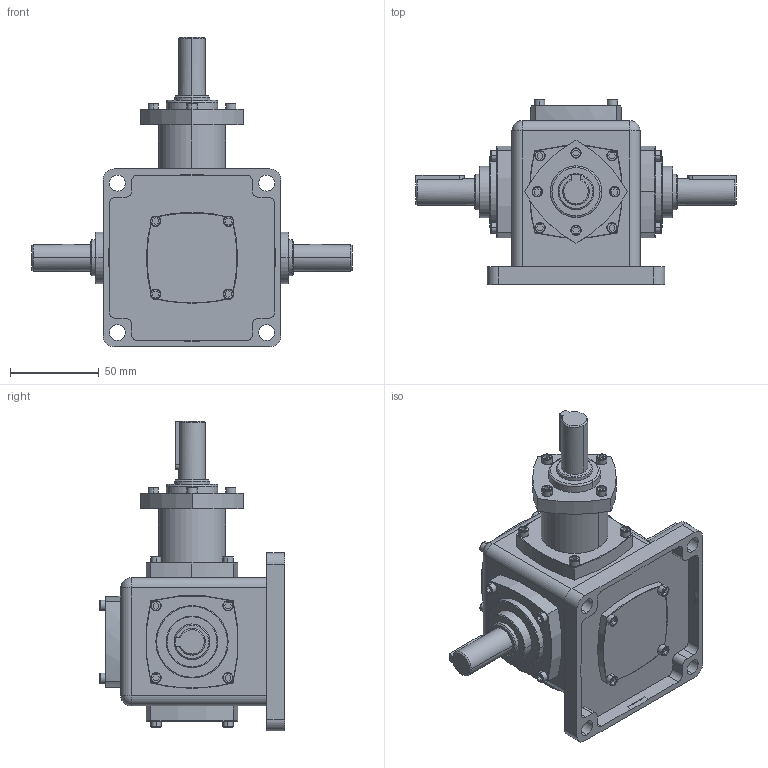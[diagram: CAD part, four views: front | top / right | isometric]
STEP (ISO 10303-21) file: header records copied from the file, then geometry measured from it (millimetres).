
FILE_DESCRIPTION (( 'STEP AP214' ), '1' );
FILE_NAME ('T2-1£º1-1-LR-B3.step', '2020-12-08T10:06:51', ( 'IT Division' ), ( 'IT' ), 'SwSTEP 2.0', 'SolidWorks 2016', '' );
FILE_SCHEMA (( 'AUTOMOTIVE_DESIGN' ));
Length unit declared in the file: millimetre
Products named in the file (1): T2-1：1-1-LR-B3
Bounding box: 180 x 104 x 174 mm (x, y, z)
Volume: 665779.2 mm3; surface area: 82639 mm2
Topology: 4 solids, 4 shells, 1485 faces, 3862 edges, 2530 vertices
Faces by surface type: plane 904, bspline 322, cylinder 154, torus 91, cone 10, sphere 4
Entity records: 61194 total; most frequent: CARTESIAN_POINT 26250, ORIENTED_EDGE 7716, DIRECTION 6019, EDGE_CURVE 3858, VECTOR 2673, LINE 2673, VERTEX_POINT 2530, AXIS2_PLACEMENT_3D 1673
